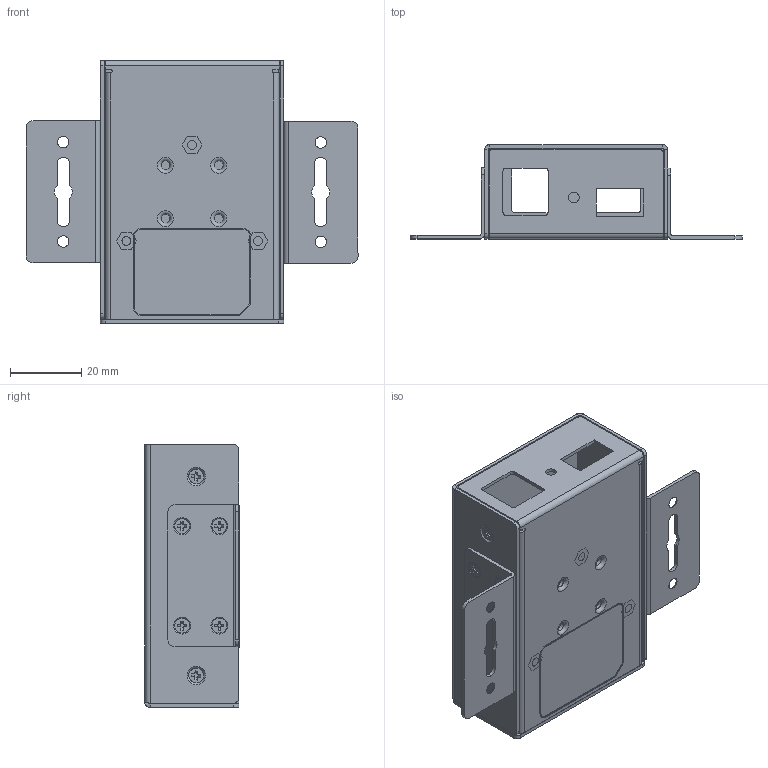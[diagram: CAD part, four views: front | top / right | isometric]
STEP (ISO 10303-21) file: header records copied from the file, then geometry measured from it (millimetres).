
FILE_DESCRIPTION(/* description */ (''),/* implementation_level */ '2;1');
FILE_NAME(/* name */ 'GM-BA4XUH-M_Model3D_JWV2.step',/* time_stamp */ '2025-12-18T16:39:37-05:00',/* author */ (''),/* organization */ (''),/* preprocessor_version */ 'ST-DEVELOPER v20.1',/* originating_system */ 'Autodesk Translation Framework v14.21.0.0',/* authorisation */ '');
FILE_SCHEMA (('AUTOMOTIVE_DESIGN { 1 0 10303 214 3 1 1 }'));
Length unit declared in the file: millimetre
Products named in the file (9): MT1-A4PD_ASM; MT1A4PD-TOP-BK; MT1A4PD-BOT-BK; SCREW-POST; FM3X3_8CCRO-A; GH-UR201_ASM_55_ASM; GH-UR201_ASM_55_ASM_1; HUBPA30-38-F-B; FM-3X3_8CCRO_1
Assembly tree (21 placements, depth 3):
  MT1-A4PD_ASM
    MT1A4PD-TOP-BK
    MT1A4PD-BOT-BK
    SCREW-POST  x3
    FM3X3_8CCRO-A  x4
    GH-UR201_ASM_55_ASM
      HUBPA30-38-F-B
      FM-3X3_8CCRO_1  x4
    GH-UR201_ASM_55_ASM_1
      HUBPA30-38-F-B
      FM-3X3_8CCRO_1  x4
Bounding box: 93.44 x 26.6 x 74 mm (x, y, z)
Volume: 19183.6 mm3; surface area: 41083.7 mm2
Topology: 23 solids, 26 shells, 659 faces, 1620 edges, 1033 vertices
Faces by surface type: plane 352, cylinder 152, bspline 112, cone 35, torus 8
Full cylindrical faces by diameter (mm): 2.5 x22, 2.6 x16, 3 x4, 3.2 x12, 3.5 x3, 4 x8, 4.1 x3, 4.2 x8, 4.5 x8
Entity records: 17225 total; most frequent: CARTESIAN_POINT 9453, DIRECTION 1593, ORIENTED_EDGE 1502, EDGE_CURVE 752, AXIS2_PLACEMENT_3D 574, VERTEX_POINT 476, LINE 445, VECTOR 445
